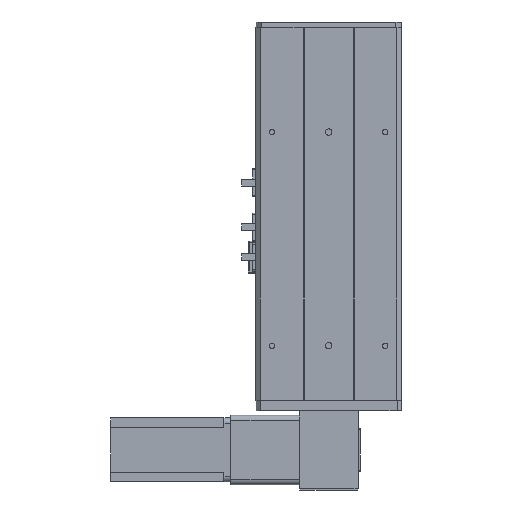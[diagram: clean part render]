
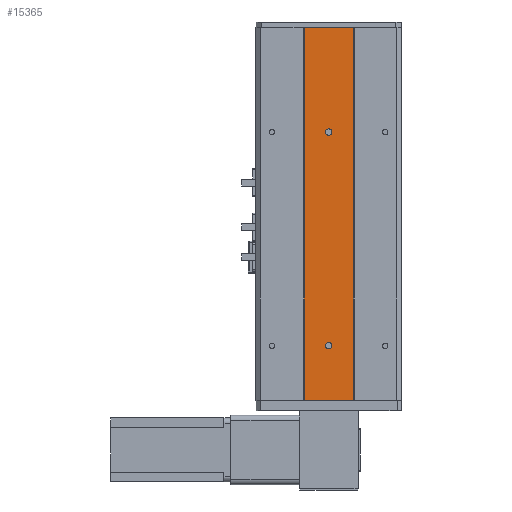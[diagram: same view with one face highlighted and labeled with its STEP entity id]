
A CAD part, front view. The second image highlights one B-rep face of the part: STEP entity #15365.
In plain terms, the highlighted planar face has unit normal (0, -1, 0).
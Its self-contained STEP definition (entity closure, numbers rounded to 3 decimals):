
#240 = CARTESIAN_POINT ( 'NONE',  ( 45., -8.6, 0. ) ) ;
#381 = CARTESIAN_POINT ( 'NONE',  ( 68., -8.6, -295. ) ) ;
#876 = FACE_BOUND ( 'NONE', #4860, .T. ) ;
#1427 = VERTEX_POINT ( 'NONE', #5639 ) ;
#1600 = AXIS2_PLACEMENT_3D ( 'NONE', #18794, #7215, #20756 ) ;
#1742 = CIRCLE ( 'NONE', #1600, 3. ) ;
#2087 = AXIS2_PLACEMENT_3D ( 'NONE', #6460, #19999, #8401 ) ;
#2114 = VECTOR ( 'NONE', #9458, 1000. ) ;
#2132 = ORIENTED_EDGE ( 'NONE', *, *, #21800, .F. ) ;
#2432 = DIRECTION ( 'NONE',  ( 0., 1., 0. ) ) ;
#3124 = VERTEX_POINT ( 'NONE', #22155 ) ;
#3133 = ORIENTED_EDGE ( 'NONE', *, *, #4596, .T. ) ;
#3740 = EDGE_CURVE ( 'NONE', #10489, #17652, #24553, .T. ) ;
#3882 = VERTEX_POINT ( 'NONE', #8559 ) ;
#3952 = AXIS2_PLACEMENT_3D ( 'NONE', #6883, #20443, #8841 ) ;
#4525 = LINE ( 'NONE', #22524, #19328 ) ;
#4570 = DIRECTION ( 'NONE',  ( -1., 0., 0. ) ) ;
#4596 = EDGE_CURVE ( 'NONE', #13322, #3124, #8140, .T. ) ;
#4776 = EDGE_CURVE ( 'NONE', #21787, #1427, #4525, .T. ) ;
#4860 = EDGE_LOOP ( 'NONE', ( #13742, #10350 ) ) ;
#5218 = EDGE_CURVE ( 'NONE', #1427, #12666, #24472, .T. ) ;
#5587 = CARTESIAN_POINT ( 'NONE',  ( 91., -8.6, -349. ) ) ;
#5639 = CARTESIAN_POINT ( 'NONE',  ( 91., -8.6, 0. ) ) ;
#5925 = DIRECTION ( 'NONE',  ( -1., 0., 0. ) ) ;
#5953 = CIRCLE ( 'NONE', #2087, 3. ) ;
#6460 = CARTESIAN_POINT ( 'NONE',  ( 68., -8.6, -98. ) ) ;
#6883 = CARTESIAN_POINT ( 'NONE',  ( 45., -8.6, -349. ) ) ;
#7215 = DIRECTION ( 'NONE',  ( 0., 1., 0. ) ) ;
#7507 = CARTESIAN_POINT ( 'NONE',  ( 45., -8.6, -349. ) ) ;
#7857 = CARTESIAN_POINT ( 'NONE',  ( 45., -8.6, -349. ) ) ;
#8140 = CIRCLE ( 'NONE', #10492, 3. ) ;
#8241 = CARTESIAN_POINT ( 'NONE',  ( 68., -8.6, -301. ) ) ;
#8379 = CARTESIAN_POINT ( 'NONE',  ( 68., -8.6, -98. ) ) ;
#8401 = DIRECTION ( 'NONE',  ( -1., 0., 0. ) ) ;
#8559 = CARTESIAN_POINT ( 'NONE',  ( 45., -8.6, -349. ) ) ;
#8841 = DIRECTION ( 'NONE',  ( -1., 0., 0. ) ) ;
#9208 = EDGE_LOOP ( 'NONE', ( #16010, #2132, #21502, #18062 ) ) ;
#9301 = EDGE_CURVE ( 'NONE', #3124, #13322, #5953, .T. ) ;
#9458 = DIRECTION ( 'NONE',  ( 0., 0., 1. ) ) ;
#9565 = EDGE_CURVE ( 'NONE', #17652, #10489, #1742, .T. ) ;
#10309 = DIRECTION ( 'NONE',  ( -1., 0., 0. ) ) ;
#10350 = ORIENTED_EDGE ( 'NONE', *, *, #9565, .T. ) ;
#10489 = VERTEX_POINT ( 'NONE', #8241 ) ;
#10492 = AXIS2_PLACEMENT_3D ( 'NONE', #8379, #21919, #10309 ) ;
#11146 = FACE_OUTER_BOUND ( 'NONE', #9208, .T. ) ;
#11540 = EDGE_CURVE ( 'NONE', #21787, #3882, #12806, .T. ) ;
#12350 = LINE ( 'NONE', #7507, #2114 ) ;
#12666 = VERTEX_POINT ( 'NONE', #240 ) ;
#12806 = LINE ( 'NONE', #7857, #22502 ) ;
#12947 = EDGE_LOOP ( 'NONE', ( #21351, #3133 ) ) ;
#13322 = VERTEX_POINT ( 'NONE', #24481 ) ;
#13742 = ORIENTED_EDGE ( 'NONE', *, *, #3740, .T. ) ;
#13995 = CARTESIAN_POINT ( 'NONE',  ( 68., -8.6, -298. ) ) ;
#15050 = AXIS2_PLACEMENT_3D ( 'NONE', #13995, #2432, #15921 ) ;
#15365 = ADVANCED_FACE ( 'NONE', ( #876, #16894, #11146 ), #16532, .F. ) ;
#15921 = DIRECTION ( 'NONE',  ( -1., 0., 0. ) ) ;
#16010 = ORIENTED_EDGE ( 'NONE', *, *, #5218, .T. ) ;
#16532 = PLANE ( 'NONE',  #3952 ) ;
#16894 = FACE_BOUND ( 'NONE', #12947, .T. ) ;
#17652 = VERTEX_POINT ( 'NONE', #381 ) ;
#18056 = CARTESIAN_POINT ( 'NONE',  ( 45., -8.6, 0. ) ) ;
#18062 = ORIENTED_EDGE ( 'NONE', *, *, #4776, .T. ) ;
#18794 = CARTESIAN_POINT ( 'NONE',  ( 68., -8.6, -298. ) ) ;
#19328 = VECTOR ( 'NONE', #20495, 1000. ) ;
#19999 = DIRECTION ( 'NONE',  ( 0., 1., 0. ) ) ;
#20443 = DIRECTION ( 'NONE',  ( 0., 1., 0. ) ) ;
#20495 = DIRECTION ( 'NONE',  ( 0., 0., 1. ) ) ;
#20550 = VECTOR ( 'NONE', #4570, 1000. ) ;
#20756 = DIRECTION ( 'NONE',  ( -1., 0., 0. ) ) ;
#21351 = ORIENTED_EDGE ( 'NONE', *, *, #9301, .T. ) ;
#21502 = ORIENTED_EDGE ( 'NONE', *, *, #11540, .F. ) ;
#21787 = VERTEX_POINT ( 'NONE', #5587 ) ;
#21800 = EDGE_CURVE ( 'NONE', #3882, #12666, #12350, .T. ) ;
#21919 = DIRECTION ( 'NONE',  ( 0., 1., 0. ) ) ;
#22155 = CARTESIAN_POINT ( 'NONE',  ( 68., -8.6, -101. ) ) ;
#22502 = VECTOR ( 'NONE', #5925, 1000. ) ;
#22524 = CARTESIAN_POINT ( 'NONE',  ( 91., -8.6, -349. ) ) ;
#24472 = LINE ( 'NONE', #18056, #20550 ) ;
#24481 = CARTESIAN_POINT ( 'NONE',  ( 68., -8.6, -95. ) ) ;
#24553 = CIRCLE ( 'NONE', #15050, 3. ) ;
